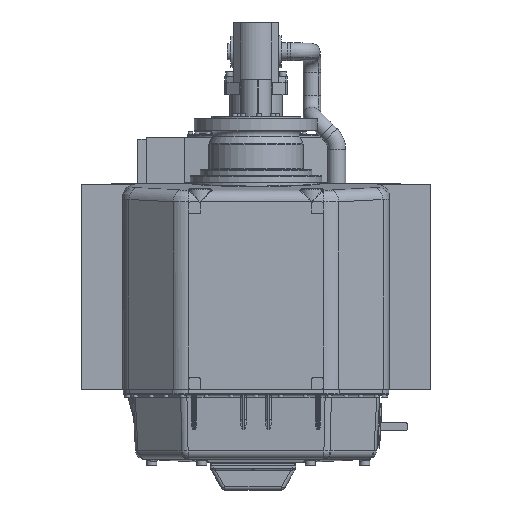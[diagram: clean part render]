
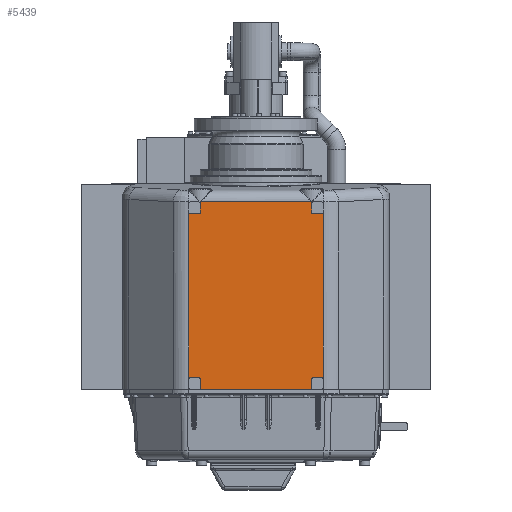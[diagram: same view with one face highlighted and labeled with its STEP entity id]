
A CAD part, front view. The second image highlights one B-rep face of the part: STEP entity #5439.
In plain terms, the highlighted planar face has unit normal (0, -1, 0).
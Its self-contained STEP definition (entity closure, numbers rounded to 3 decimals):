
#99=DIRECTION('',(1.,0.,0.));
#100=VECTOR('',#99,387.868);
#101=CARTESIAN_POINT('',(-193.934,-483.,0.));
#102=LINE('',#101,#100);
#277=DIRECTION('',(0.,0.,-1.));
#278=VECTOR('',#277,567.728);
#279=CARTESIAN_POINT('',(228.934,-483.,602.728));
#280=LINE('',#279,#278);
#302=CARTESIAN_POINT('',(193.934,-483.,5.));
#303=DIRECTION('',(0.,-1.,0.));
#304=DIRECTION('',(-1.,0.,0.));
#305=AXIS2_PLACEMENT_3D('',#302,#303,#304);
#307=CARTESIAN_POINT('',(-193.934,-483.,5.));
#308=DIRECTION('',(0.,-1.,0.));
#309=DIRECTION('',(0.,0.,-1.));
#310=AXIS2_PLACEMENT_3D('',#307,#308,#309);
#312=DIRECTION('',(0.,0.,1.));
#313=VECTOR('',#312,30.);
#314=CARTESIAN_POINT('',(-188.934,-483.,5.));
#315=LINE('',#314,#313);
#316=CARTESIAN_POINT('',(-193.934,-483.,35.));
#317=DIRECTION('',(0.,-1.,0.));
#318=DIRECTION('',(1.,0.,0.));
#319=AXIS2_PLACEMENT_3D('',#316,#317,#318);
#321=DIRECTION('',(-1.,0.,0.));
#322=VECTOR('',#321,30.);
#323=CARTESIAN_POINT('',(-193.934,-483.,40.));
#324=LINE('',#323,#322);
#325=CARTESIAN_POINT('',(-223.934,-483.,35.));
#326=DIRECTION('',(0.,-1.,0.));
#327=DIRECTION('',(0.,0.,1.));
#328=AXIS2_PLACEMENT_3D('',#325,#326,#327);
#330=CARTESIAN_POINT('',(-223.934,-483.,602.728));
#331=DIRECTION('',(0.,-1.,0.));
#332=DIRECTION('',(-1.,0.,0.));
#333=AXIS2_PLACEMENT_3D('',#330,#331,#332);
#335=DIRECTION('',(1.,0.,0.));
#336=VECTOR('',#335,30.);
#337=CARTESIAN_POINT('',(-223.934,-483.,597.728));
#338=LINE('',#337,#336);
#339=CARTESIAN_POINT('',(-193.934,-483.,602.728));
#340=DIRECTION('',(0.,-1.,0.));
#341=DIRECTION('',(0.,0.,-1.));
#342=AXIS2_PLACEMENT_3D('',#339,#340,#341);
#344=DIRECTION('',(0.,0.,1.));
#345=VECTOR('',#344,30.);
#346=CARTESIAN_POINT('',(-188.934,-483.,602.728));
#347=LINE('',#346,#345);
#348=CARTESIAN_POINT('',(-193.934,-483.,632.728));
#349=DIRECTION('',(0.,-1.,0.));
#350=DIRECTION('',(1.,0.,0.));
#351=AXIS2_PLACEMENT_3D('',#348,#349,#350);
#353=CARTESIAN_POINT('',(193.934,-483.,632.728));
#354=DIRECTION('',(0.,-1.,0.));
#355=DIRECTION('',(0.,0.,1.));
#356=AXIS2_PLACEMENT_3D('',#353,#354,#355);
#358=DIRECTION('',(0.,0.,-1.));
#359=VECTOR('',#358,30.);
#360=CARTESIAN_POINT('',(188.934,-483.,632.728));
#361=LINE('',#360,#359);
#362=CARTESIAN_POINT('',(193.934,-483.,602.728));
#363=DIRECTION('',(0.,-1.,0.));
#364=DIRECTION('',(-1.,0.,0.));
#365=AXIS2_PLACEMENT_3D('',#362,#363,#364);
#367=DIRECTION('',(1.,0.,0.));
#368=VECTOR('',#367,30.);
#369=CARTESIAN_POINT('',(193.934,-483.,597.728));
#370=LINE('',#369,#368);
#371=CARTESIAN_POINT('',(223.934,-483.,602.728));
#372=DIRECTION('',(0.,-1.,0.));
#373=DIRECTION('',(0.,0.,-1.));
#374=AXIS2_PLACEMENT_3D('',#371,#372,#373);
#376=CARTESIAN_POINT('',(223.934,-483.,35.));
#377=DIRECTION('',(0.,-1.,0.));
#378=DIRECTION('',(1.,0.,0.));
#379=AXIS2_PLACEMENT_3D('',#376,#377,#378);
#381=DIRECTION('',(-1.,0.,0.));
#382=VECTOR('',#381,30.);
#383=CARTESIAN_POINT('',(223.934,-483.,40.));
#384=LINE('',#383,#382);
#385=CARTESIAN_POINT('',(193.934,-483.,35.));
#386=DIRECTION('',(0.,-1.,0.));
#387=DIRECTION('',(0.,0.,1.));
#388=AXIS2_PLACEMENT_3D('',#385,#386,#387);
#390=DIRECTION('',(0.,0.,-1.));
#391=VECTOR('',#390,30.);
#392=CARTESIAN_POINT('',(188.934,-483.,35.));
#393=LINE('',#392,#391);
#439=DIRECTION('',(0.,0.,-1.));
#440=VECTOR('',#439,567.728);
#441=CARTESIAN_POINT('',(-228.934,-483.,602.728));
#442=LINE('',#441,#440);
#3233=DIRECTION('',(-1.,0.,0.));
#3234=VECTOR('',#3233,379.687);
#3235=CARTESIAN_POINT('',(189.844,-483.,637.728));
#3236=LINE('',#3235,#3234);
#3257=DIRECTION('',(-1.,0.,0.));
#3258=VECTOR('',#3257,4.09);
#3259=CARTESIAN_POINT('',(-189.844,-483.,637.728));
#3260=LINE('',#3259,#3258);
#3265=DIRECTION('',(-1.,0.,0.));
#3266=VECTOR('',#3265,4.09);
#3267=CARTESIAN_POINT('',(193.934,-483.,637.728));
#3268=LINE('',#3267,#3266);
#3282=CARTESIAN_POINT('',(189.844,-483.,637.728));
#3816=CARTESIAN_POINT('',(-189.844,-483.,637.728));
#4670=VERTEX_POINT('',#3816);
#4679=VERTEX_POINT('',#3282);
#4823=CARTESIAN_POINT('',(188.934,-483.,5.));
#4824=CARTESIAN_POINT('',(193.934,-483.,0.));
#4825=VERTEX_POINT('',#4823);
#4826=VERTEX_POINT('',#4824);
#4831=CARTESIAN_POINT('',(228.934,-483.,35.));
#4832=VERTEX_POINT('',#4831);
#4833=CARTESIAN_POINT('',(223.934,-483.,40.));
#4834=VERTEX_POINT('',#4833);
#4835=CARTESIAN_POINT('',(193.934,-483.,40.));
#4836=VERTEX_POINT('',#4835);
#4837=CARTESIAN_POINT('',(188.934,-483.,35.));
#4838=VERTEX_POINT('',#4837);
#4839=CARTESIAN_POINT('',(-188.934,-483.,5.));
#4840=CARTESIAN_POINT('',(-188.934,-483.,35.));
#4841=VERTEX_POINT('',#4839);
#4842=VERTEX_POINT('',#4840);
#4843=CARTESIAN_POINT('',(-193.934,-483.,40.));
#4844=VERTEX_POINT('',#4843);
#4845=CARTESIAN_POINT('',(-223.934,-483.,40.));
#4846=VERTEX_POINT('',#4845);
#4847=CARTESIAN_POINT('',(-228.934,-483.,35.));
#4848=VERTEX_POINT('',#4847);
#4853=CARTESIAN_POINT('',(-193.934,-483.,0.));
#4854=VERTEX_POINT('',#4853);
#4855=CARTESIAN_POINT('',(-188.934,-483.,632.728));
#4856=CARTESIAN_POINT('',(-193.934,-483.,637.728));
#4857=VERTEX_POINT('',#4855);
#4858=VERTEX_POINT('',#4856);
#4863=CARTESIAN_POINT('',(-228.934,-483.,602.728));
#4864=VERTEX_POINT('',#4863);
#4865=CARTESIAN_POINT('',(-223.934,-483.,597.728));
#4866=VERTEX_POINT('',#4865);
#4867=CARTESIAN_POINT('',(-193.934,-483.,597.728));
#4868=VERTEX_POINT('',#4867);
#4869=CARTESIAN_POINT('',(-188.934,-483.,602.728));
#4870=VERTEX_POINT('',#4869);
#4871=CARTESIAN_POINT('',(223.934,-483.,597.728));
#4872=CARTESIAN_POINT('',(228.934,-483.,602.728));
#4873=VERTEX_POINT('',#4871);
#4874=VERTEX_POINT('',#4872);
#4879=CARTESIAN_POINT('',(193.934,-483.,637.728));
#4880=VERTEX_POINT('',#4879);
#4881=CARTESIAN_POINT('',(188.934,-483.,632.728));
#4882=VERTEX_POINT('',#4881);
#4883=CARTESIAN_POINT('',(188.934,-483.,602.728));
#4884=VERTEX_POINT('',#4883);
#4885=CARTESIAN_POINT('',(193.934,-483.,597.728));
#4886=VERTEX_POINT('',#4885);
#5382=CARTESIAN_POINT('',(-260.,-483.,0.));
#5383=DIRECTION('',(0.,-1.,0.));
#5384=DIRECTION('',(1.,0.,0.));
#5385=AXIS2_PLACEMENT_3D('',#5382,#5383,#5384);
#5386=PLANE('',#5385);
#5388=ORIENTED_EDGE('',*,*,#5387,.T.);
#5389=ORIENTED_EDGE('',*,*,#5088,.F.);
#5391=ORIENTED_EDGE('',*,*,#5390,.T.);
#5393=ORIENTED_EDGE('',*,*,#5392,.T.);
#5395=ORIENTED_EDGE('',*,*,#5394,.T.);
#5397=ORIENTED_EDGE('',*,*,#5396,.T.);
#5399=ORIENTED_EDGE('',*,*,#5398,.T.);
#5401=ORIENTED_EDGE('',*,*,#5400,.F.);
#5403=ORIENTED_EDGE('',*,*,#5402,.T.);
#5405=ORIENTED_EDGE('',*,*,#5404,.T.);
#5407=ORIENTED_EDGE('',*,*,#5406,.T.);
#5409=ORIENTED_EDGE('',*,*,#5408,.T.);
#5411=ORIENTED_EDGE('',*,*,#5410,.T.);
#5413=ORIENTED_EDGE('',*,*,#5412,.F.);
#5415=ORIENTED_EDGE('',*,*,#5414,.F.);
#5417=ORIENTED_EDGE('',*,*,#5416,.F.);
#5419=ORIENTED_EDGE('',*,*,#5418,.T.);
#5421=ORIENTED_EDGE('',*,*,#5420,.T.);
#5423=ORIENTED_EDGE('',*,*,#5422,.T.);
#5425=ORIENTED_EDGE('',*,*,#5424,.T.);
#5427=ORIENTED_EDGE('',*,*,#5426,.T.);
#5428=ORIENTED_EDGE('',*,*,#5367,.T.);
#5430=ORIENTED_EDGE('',*,*,#5429,.T.);
#5432=ORIENTED_EDGE('',*,*,#5431,.T.);
#5434=ORIENTED_EDGE('',*,*,#5433,.T.);
#5436=ORIENTED_EDGE('',*,*,#5435,.T.);
#5437=EDGE_LOOP('',(#5388,#5389,#5391,#5393,#5395,#5397,#5399,#5401,#5403,#5405,
#5407,#5409,#5411,#5413,#5415,#5417,#5419,#5421,#5423,#5425,#5427,#5428,#5430,
#5432,#5434,#5436));
#5438=FACE_OUTER_BOUND('',#5437,.F.);
#5439=ADVANCED_FACE('',(#5438),#5386,.T.);
#306=CIRCLE('',#305,5.);
#311=CIRCLE('',#310,5.);
#320=CIRCLE('',#319,5.);
#329=CIRCLE('',#328,5.);
#334=CIRCLE('',#333,5.);
#343=CIRCLE('',#342,5.);
#352=CIRCLE('',#351,5.);
#357=CIRCLE('',#356,5.);
#366=CIRCLE('',#365,5.);
#375=CIRCLE('',#374,5.);
#380=CIRCLE('',#379,5.);
#389=CIRCLE('',#388,5.);
#5088=EDGE_CURVE('',#4854,#4826,#102,.T.);
#5367=EDGE_CURVE('',#4874,#4832,#280,.T.);
#5387=EDGE_CURVE('',#4825,#4826,#306,.T.);
#5390=EDGE_CURVE('',#4854,#4841,#311,.T.);
#5392=EDGE_CURVE('',#4841,#4842,#315,.T.);
#5394=EDGE_CURVE('',#4842,#4844,#320,.T.);
#5396=EDGE_CURVE('',#4844,#4846,#324,.T.);
#5398=EDGE_CURVE('',#4846,#4848,#329,.T.);
#5400=EDGE_CURVE('',#4864,#4848,#442,.T.);
#5402=EDGE_CURVE('',#4864,#4866,#334,.T.);
#5404=EDGE_CURVE('',#4866,#4868,#338,.T.);
#5406=EDGE_CURVE('',#4868,#4870,#343,.T.);
#5408=EDGE_CURVE('',#4870,#4857,#347,.T.);
#5410=EDGE_CURVE('',#4857,#4858,#352,.T.);
#5412=EDGE_CURVE('',#4670,#4858,#3260,.T.);
#5414=EDGE_CURVE('',#4679,#4670,#3236,.T.);
#5416=EDGE_CURVE('',#4880,#4679,#3268,.T.);
#5418=EDGE_CURVE('',#4880,#4882,#357,.T.);
#5420=EDGE_CURVE('',#4882,#4884,#361,.T.);
#5422=EDGE_CURVE('',#4884,#4886,#366,.T.);
#5424=EDGE_CURVE('',#4886,#4873,#370,.T.);
#5426=EDGE_CURVE('',#4873,#4874,#375,.T.);
#5429=EDGE_CURVE('',#4832,#4834,#380,.T.);
#5431=EDGE_CURVE('',#4834,#4836,#384,.T.);
#5433=EDGE_CURVE('',#4836,#4838,#389,.T.);
#5435=EDGE_CURVE('',#4838,#4825,#393,.T.);
